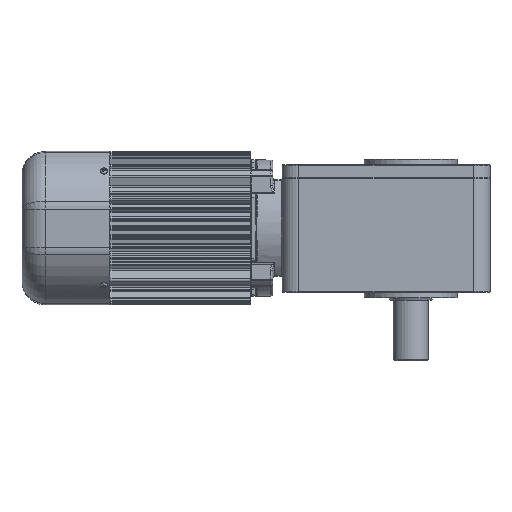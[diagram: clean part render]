
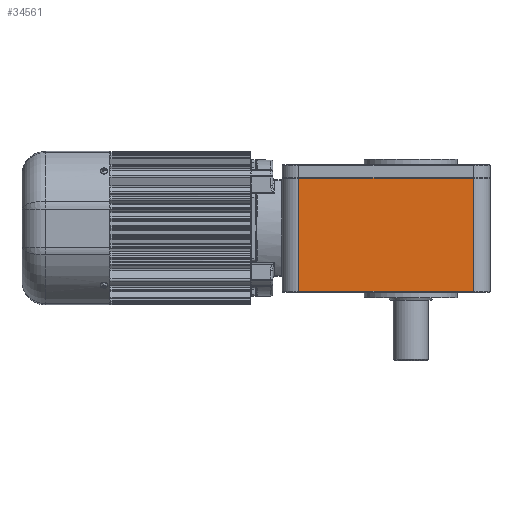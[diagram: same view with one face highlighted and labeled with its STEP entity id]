
A CAD part, front view. The second image highlights one B-rep face of the part: STEP entity #34561.
In plain terms, the highlighted planar face has unit normal (0, -1, 0).
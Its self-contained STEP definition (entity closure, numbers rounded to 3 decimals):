
#1079=LINE('',#55664,#3577);
#1189=LINE('',#56271,#3687);
#1196=LINE('',#56304,#3694);
#1197=LINE('',#56306,#3695);
#3577=VECTOR('',#42063,159.);
#3687=VECTOR('',#42639,159.);
#3694=VECTOR('',#42678,103.);
#3695=VECTOR('',#42681,103.);
#7228=FACE_OUTER_BOUND('',#9330,.T.);
#9330=EDGE_LOOP('',(#23593,#23594,#23595,#23596));
#13828=VERTEX_POINT('',#55661);
#13829=VERTEX_POINT('',#55663);
#14012=VERTEX_POINT('',#56231);
#14021=VERTEX_POINT('',#56269);
#17315=EDGE_CURVE('',#13828,#13829,#1079,.T.);
#17581=EDGE_CURVE('',#14021,#14012,#1189,.T.);
#17598=EDGE_CURVE('',#13828,#14012,#1196,.T.);
#17599=EDGE_CURVE('',#13829,#14021,#1197,.T.);
#23593=ORIENTED_EDGE('',*,*,#17581,.F.);
#23594=ORIENTED_EDGE('',*,*,#17599,.F.);
#23595=ORIENTED_EDGE('',*,*,#17315,.F.);
#23596=ORIENTED_EDGE('',*,*,#17598,.T.);
#31848=PLANE('',#37109);
#34561=ADVANCED_FACE('',(#7228),#31848,.T.);
#37109=AXIS2_PLACEMENT_3D('',#56305,#42679,#42680);
#42063=DIRECTION('',(1.,0.,0.));
#42639=DIRECTION('',(-1.,0.,0.));
#42678=DIRECTION('',(0.,0.,-1.));
#42679=DIRECTION('center_axis',(0.,-1.,0.));
#42680=DIRECTION('ref_axis',(0.,0.,-1.));
#42681=DIRECTION('',(0.,0.,-1.));
#55661=CARTESIAN_POINT('',(-102.,-104.,45.5));
#55663=CARTESIAN_POINT('',(57.,-104.,45.5));
#55664=CARTESIAN_POINT('',(-102.,-104.,45.5));
#56231=CARTESIAN_POINT('',(-102.,-104.,-57.5));
#56269=CARTESIAN_POINT('',(57.,-104.,-57.5));
#56271=CARTESIAN_POINT('',(57.,-104.,-57.5));
#56304=CARTESIAN_POINT('',(-102.,-104.,45.5));
#56305=CARTESIAN_POINT('Origin',(57.,-104.,0.));
#56306=CARTESIAN_POINT('',(57.,-104.,45.5));
